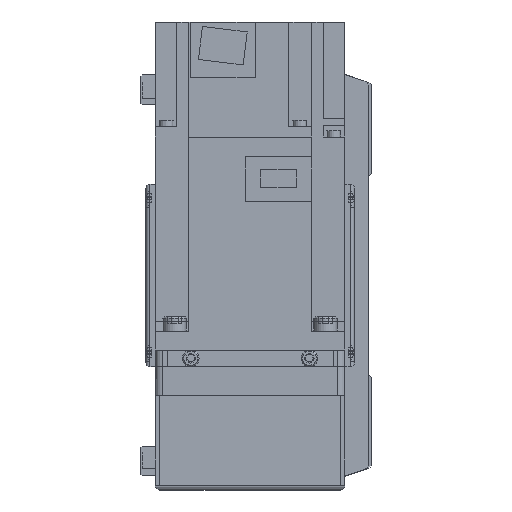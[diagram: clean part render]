
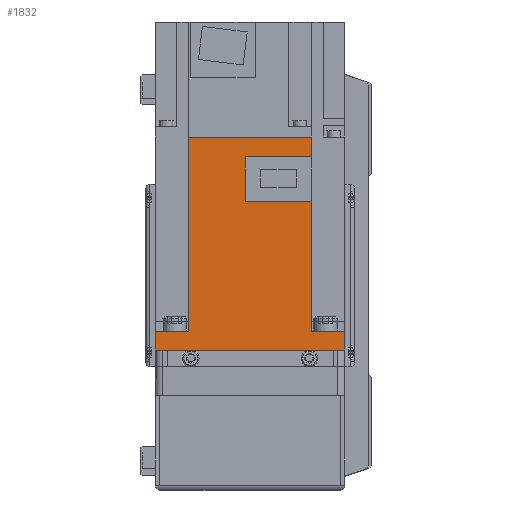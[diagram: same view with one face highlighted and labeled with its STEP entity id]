
A CAD part, left-side view. The second image highlights one B-rep face of the part: STEP entity #1832.
In plain terms, the highlighted planar face has unit normal (-1, 0, 0) as drawn and (1, 0, 0) by its records, which use the part's own axes.
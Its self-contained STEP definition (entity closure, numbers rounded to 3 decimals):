
#1832 = ADVANCED_FACE( '', ( #4511 ), #4512, .F. );
#4511 = FACE_OUTER_BOUND( '', #8253, .T. );
#4512 = PLANE( '', #8254 );
#8253 = EDGE_LOOP( '', ( #13550, #13551, #13552, #13553, #13554, #13555, #13556, #13557, #13558, #13559, #13560, #13561 ) );
#8254 = AXIS2_PLACEMENT_3D( '', #13562, #13563, #13564 );
#13550 = ORIENTED_EDGE( '', *, *, #21009, .F. );
#13551 = ORIENTED_EDGE( '', *, *, #22416, .F. );
#13552 = ORIENTED_EDGE( '', *, *, #21925, .F. );
#13553 = ORIENTED_EDGE( '', *, *, #22417, .T. );
#13554 = ORIENTED_EDGE( '', *, *, #22418, .F. );
#13555 = ORIENTED_EDGE( '', *, *, #22073, .T. );
#13556 = ORIENTED_EDGE( '', *, *, #22419, .T. );
#13557 = ORIENTED_EDGE( '', *, *, #22420, .F. );
#13558 = ORIENTED_EDGE( '', *, *, #22421, .F. );
#13559 = ORIENTED_EDGE( '', *, *, #22422, .F. );
#13560 = ORIENTED_EDGE( '', *, *, #21927, .F. );
#13561 = ORIENTED_EDGE( '', *, *, #21225, .F. );
#13562 = CARTESIAN_POINT( '', ( 40., 89.8, 40. ) );
#13563 = DIRECTION( '', ( -1., 0., 0. ) );
#13564 = DIRECTION( '', ( 0., 0., 1. ) );
#21009 = EDGE_CURVE( '', #24904, #24906, #24907, .T. );
#21225 = EDGE_CURVE( '', #24906, #25300, #25301, .T. );
#21925 = EDGE_CURVE( '', #26524, #26520, #26526, .T. );
#21927 = EDGE_CURVE( '', #25300, #26528, #26529, .T. );
#22073 = EDGE_CURVE( '', #26768, #26766, #26769, .T. );
#22416 = EDGE_CURVE( '', #26520, #24904, #27328, .T. );
#22417 = EDGE_CURVE( '', #26524, #27329, #27330, .T. );
#22418 = EDGE_CURVE( '', #26768, #27329, #27331, .T. );
#22419 = EDGE_CURVE( '', #26766, #27332, #27333, .T. );
#22420 = EDGE_CURVE( '', #27334, #27332, #27335, .T. );
#22421 = EDGE_CURVE( '', #27336, #27334, #27337, .T. );
#22422 = EDGE_CURVE( '', #26528, #27336, #27338, .T. );
#24904 = VERTEX_POINT( '', #30693 );
#24906 = VERTEX_POINT( '', #30696 );
#24907 = LINE( '', #30697, #30698 );
#25300 = VERTEX_POINT( '', #31317 );
#25301 = LINE( '', #31318, #31319 );
#26520 = VERTEX_POINT( '', #33319 );
#26524 = VERTEX_POINT( '', #33325 );
#26526 = LINE( '', #33328, #33329 );
#26528 = VERTEX_POINT( '', #33331 );
#26529 = LINE( '', #33332, #33333 );
#26766 = VERTEX_POINT( '', #33709 );
#26768 = VERTEX_POINT( '', #33712 );
#26769 = LINE( '', #33713, #33714 );
#27328 = LINE( '', #34549, #34550 );
#27329 = VERTEX_POINT( '', #34551 );
#27330 = LINE( '', #34552, #34553 );
#27331 = LINE( '', #34554, #34555 );
#27332 = VERTEX_POINT( '', #34556 );
#27333 = LINE( '', #34557, #34558 );
#27334 = VERTEX_POINT( '', #34559 );
#27335 = LINE( '', #34560, #34561 );
#27336 = VERTEX_POINT( '', #34562 );
#27337 = LINE( '', #34563, #34564 );
#27338 = LINE( '', #34565, #34566 );
#30693 = CARTESIAN_POINT( '', ( 40., 81.4, -25.95 ) );
#30696 = CARTESIAN_POINT( '', ( 40., 81.4, 1.8 ) );
#30697 = CARTESIAN_POINT( '', ( 40., 81.4, -26. ) );
#30698 = VECTOR( '', #39448, 1000. );
#31317 = CARTESIAN_POINT( '', ( 40., 62.8, 1.8 ) );
#31318 = CARTESIAN_POINT( '', ( 40., 81.4, 1.8 ) );
#31319 = VECTOR( '', #39763, 1000. );
#33319 = CARTESIAN_POINT( '', ( 40., 89.8, -25.95 ) );
#33325 = CARTESIAN_POINT( '', ( 40., 89.8, 25.95 ) );
#33328 = CARTESIAN_POINT( '', ( 40., 89.8, 40. ) );
#33329 = VECTOR( '', #40687, 1000. );
#33331 = CARTESIAN_POINT( '', ( 40., 62.8, -25.95 ) );
#33332 = CARTESIAN_POINT( '', ( 40., 62.8, 1.8 ) );
#33333 = VECTOR( '', #40688, 1000. );
#33709 = CARTESIAN_POINT( '', ( 40., 0., 40. ) );
#33712 = CARTESIAN_POINT( '', ( 40., 8., 40. ) );
#33713 = CARTESIAN_POINT( '', ( 40., 89.8, 40. ) );
#33714 = VECTOR( '', #40881, 1000. );
#34549 = CARTESIAN_POINT( '', ( 40., 158., -25.95 ) );
#34550 = VECTOR( '', #41338, 1000. );
#34551 = CARTESIAN_POINT( '', ( 40., 8., 25.95 ) );
#34552 = CARTESIAN_POINT( '', ( 40., 158., 25.95 ) );
#34553 = VECTOR( '', #41339, 1000. );
#34554 = CARTESIAN_POINT( '', ( 40., 8., 40. ) );
#34555 = VECTOR( '', #41340, 1000. );
#34556 = CARTESIAN_POINT( '', ( 40., 0., -40. ) );
#34557 = CARTESIAN_POINT( '', ( 40., 0., 40. ) );
#34558 = VECTOR( '', #41341, 1000. );
#34559 = CARTESIAN_POINT( '', ( 40., 8., -40. ) );
#34560 = CARTESIAN_POINT( '', ( 40., 89.8, -40. ) );
#34561 = VECTOR( '', #41342, 1000. );
#34562 = CARTESIAN_POINT( '', ( 40., 8., -25.95 ) );
#34563 = CARTESIAN_POINT( '', ( 40., 8., 40. ) );
#34564 = VECTOR( '', #41343, 1000. );
#34565 = CARTESIAN_POINT( '', ( 40., 158., -25.95 ) );
#34566 = VECTOR( '', #41344, 1000. );
#39448 = DIRECTION( '', ( 0., 0., 1. ) );
#39763 = DIRECTION( '', ( 0., -1., 0. ) );
#40687 = DIRECTION( '', ( 0., 0., -1. ) );
#40688 = DIRECTION( '', ( 0., 0., -1. ) );
#40881 = DIRECTION( '', ( 0., -1., 0. ) );
#41338 = DIRECTION( '', ( 0., -1., 0. ) );
#41339 = DIRECTION( '', ( 0., -1., 0. ) );
#41340 = DIRECTION( '', ( 0., 0., -1. ) );
#41341 = DIRECTION( '', ( 0., 0., -1. ) );
#41342 = DIRECTION( '', ( 0., -1., 0. ) );
#41343 = DIRECTION( '', ( 0., 0., -1. ) );
#41344 = DIRECTION( '', ( 0., -1., 0. ) );
